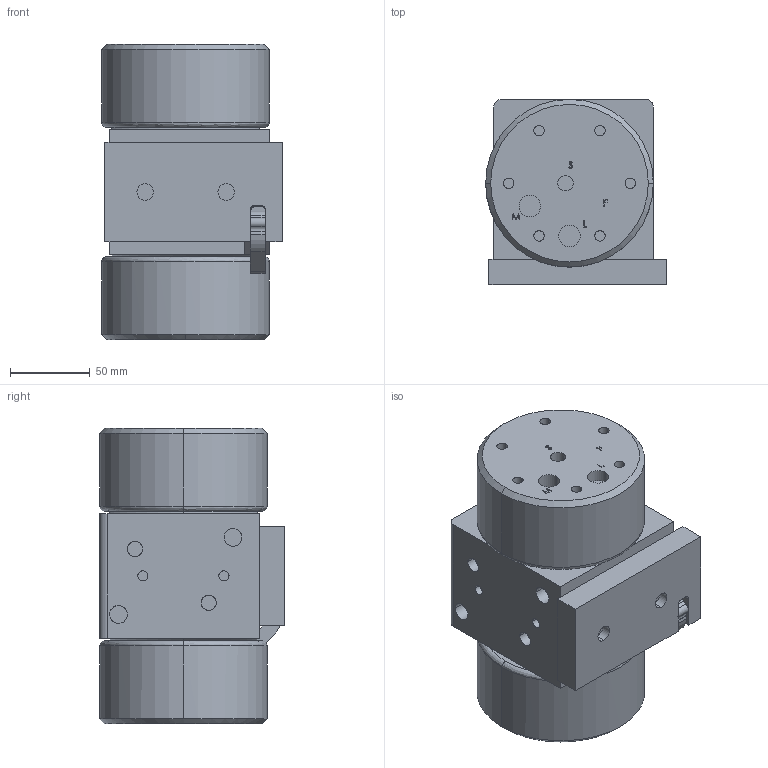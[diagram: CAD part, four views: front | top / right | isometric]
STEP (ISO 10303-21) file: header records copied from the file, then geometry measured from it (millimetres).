
FILE_DESCRIPTION (( 'STEP AP214' ), '1' );
FILE_NAME ('psa030-no-shuttle.STEP', '2012-11-21T21:16:51', ( '' ), ( '' ), 'SwSTEP 2.0', 'SolidWorks 2012', '' );
FILE_SCHEMA (( 'AUTOMOTIVE_DESIGN' ));
Length unit declared in the file: inch
Products named in the file (1): psa030-no-shuttle
Bounding box: 113.22 x 115.87 x 185.09 mm (x, y, z)
Volume: 1753346.5 mm3; surface area: 129813.9 mm2
Topology: 2 solids, 2 shells, 726 faces, 1925 edges, 1300 vertices
Faces by surface type: plane 427, bspline 146, cylinder 141, cone 12
Entity records: 39399 total; most frequent: CARTESIAN_POINT 20504, ORIENTED_EDGE 3850, DIRECTION 2508, EDGE_CURVE 1925, VERTEX_POINT 1300, LINE 1060, VECTOR 1060, EDGE_LOOP 827
